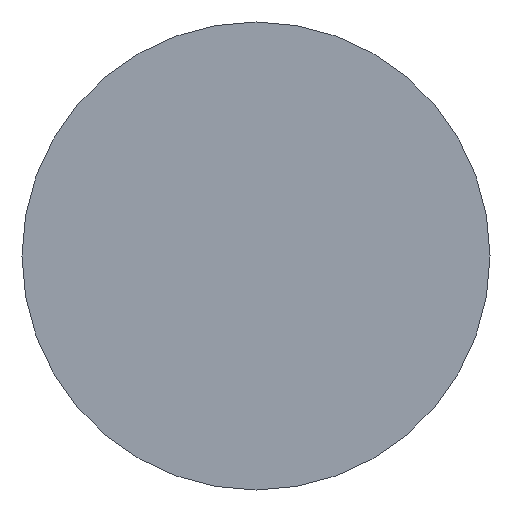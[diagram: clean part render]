
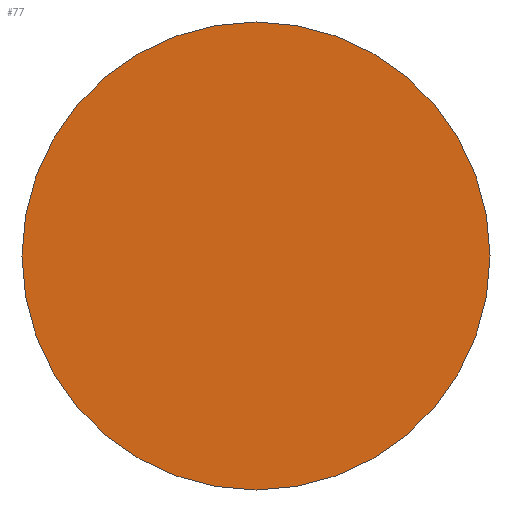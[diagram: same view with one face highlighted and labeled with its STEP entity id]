
A CAD part, left-side view. The second image highlights one B-rep face of the part: STEP entity #77.
In plain terms, the highlighted free-form (B-spline) face has degree [1, 1] with [2, 2] control points.
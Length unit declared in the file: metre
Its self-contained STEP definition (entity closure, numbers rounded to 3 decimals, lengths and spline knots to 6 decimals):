
#77 = ADVANCED_FACE( '', ( #93 ), #94, .F. );
#93 = FACE_OUTER_BOUND( '', #123, .T. );
#94 = B_SPLINE_SURFACE_WITH_KNOTS( '', 1, 1, ( ( #124, #125 ), ( #126, #127 ) ), .UNSPECIFIED., .F., .F., .F., ( 2, 2 ), ( 2, 2 ), ( 0., 1. ), ( 0., 1. ), .UNSPECIFIED. );
#123 = EDGE_LOOP( '', ( #217, #218 ) );
#124 = CARTESIAN_POINT( '', ( 0., -0.011132, 0.011132 ) );
#125 = CARTESIAN_POINT( '', ( 0., 0.011132, 0.011132 ) );
#126 = CARTESIAN_POINT( '', ( 0., -0.011132, -0.011132 ) );
#127 = CARTESIAN_POINT( '', ( 0., 0.011132, -0.011132 ) );
#217 = ORIENTED_EDGE( '', *, *, #301, .T. );
#218 = ORIENTED_EDGE( '', *, *, #302, .T. );
#301 = EDGE_CURVE( '', #327, #328, #329, .T. );
#302 = EDGE_CURVE( '', #328, #327, #330, .T. );
#327 = VERTEX_POINT( '', #369 );
#328 = VERTEX_POINT( '', #370 );
#329 = CIRCLE( '', #371, 0.011 );
#330 = CIRCLE( '', #372, 0.011 );
#369 = CARTESIAN_POINT( '', ( 0., 0., -0.011 ) );
#370 = CARTESIAN_POINT( '', ( 0., 0., 0.011 ) );
#371 = AXIS2_PLACEMENT_3D( '', #439, #440, #441 );
#372 = AXIS2_PLACEMENT_3D( '', #442, #443, #444 );
#439 = CARTESIAN_POINT( '', ( 0., 0., 0. ) );
#440 = DIRECTION( '', ( -1., 0., 0. ) );
#441 = DIRECTION( '', ( 0., 0., 1. ) );
#442 = CARTESIAN_POINT( '', ( 0., 0., 0. ) );
#443 = DIRECTION( '', ( -1., 0., 0. ) );
#444 = DIRECTION( '', ( 0., 0., 1. ) );
